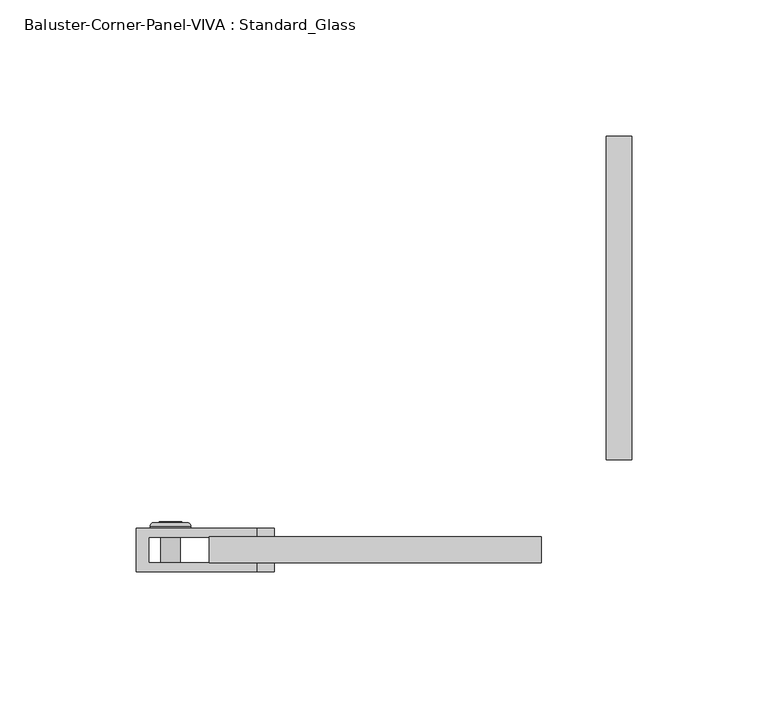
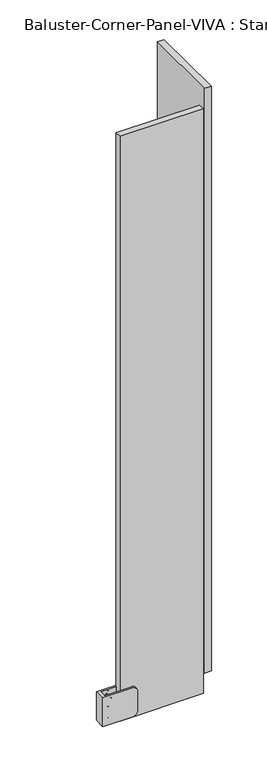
"""IFC4 building model written with IfcOpenShell, lengths in millimetres: railing geometry, Baluster-Corner-Panel-VIVA : Standard_Glass."""

from ifc_helpers import new_model, si_unit, point, frame, origin, place, context, project, spatial, polyline, circle_curve, ellipse_curve, trimmed, outline, extrude, source, transform, mapped, element, save
from ifc_brep_helpers import plane_surface, cylinder_surface, revolved_surface, advanced_brep


def baluster_corner_panel_viva_standard_glass_b3a1ee21(model_context):
    return source(origin(), model_context, "Body", "SolidModel", [
        advanced_brep(
        [(-136.3419148, -36.7665, 138.7358896), (-136.3419148, -24.0665, 138.7358896), (-129.251023, -24.0665, 138.7358896), (-129.251023, -36.7665, 138.7358896), (-140.204258, -24.0665, 138.7358896), (-125.3886798, -24.0665, 138.7358896), (-134.4525443, -23.199388, 138.7358896), (-134.4525443, -36.7665, 138.7358896), (-131.1403935, -36.7665, 138.7358896), (-131.1403935, -23.199388, 138.7358896), (-140.204258, -23.2316551, 138.7358896), (-138.922986, -21.9503831, 138.7358896), (-126.6699518, -21.9503831, 138.7358896), (-125.3886798, -23.2316551, 138.7358896), (-137.0950644, -21.9503831, 138.7358896), (-128.4978734, -21.9503831, 138.7358896), (-137.0950644, -23.199388, 138.7358896), (-128.4978734, -23.199388, 138.7358896)],
        [
            (0, 1),
            (1, 2, circle_curve(frame((-132.7964689, -24.0665, 138.7358896), z_axis=(0.0, -1.0, 0.0), x_axis=(1.0, 0.0, 0.0)), 3.5454459)),
            (2, 3),
            (3, 0, circle_curve(frame((-132.7964689, -36.7665, 138.7358896), z_axis=(0.0, 1.0, 0.0), x_axis=(1.0, 0.0, 0.0)), 3.5454459)),
            (2, 1, circle_curve(frame((-132.7964689, -24.0665, 138.7358896), z_axis=(0.0, -1.0, 0.0), x_axis=(1.0, 0.0, 0.0)), 3.5454459)),
            (0, 3, circle_curve(frame((-132.7964689, -36.7665, 138.7358896), z_axis=(0.0, 1.0, 0.0), x_axis=(1.0, 0.0, 0.0)), 3.5454459)),
            (1, 4),
            (4, 5, circle_curve(frame((-132.7964689, -24.0665, 138.7358896), z_axis=(0.0, -1.0, 0.0), x_axis=(1.0, 0.0, 0.0)), 7.4077891)),
            (5, 2),
            (5, 4, circle_curve(frame((-132.7964689, -24.0665, 138.7358896), z_axis=(0.0, -1.0, 0.0), x_axis=(1.0, 0.0, 0.0)), 7.4077891)),
            (6, 7),
            (7, 8, circle_curve(frame((-132.7964689, -36.7665, 138.7358896), z_axis=(0.0, -1.0, 0.0), x_axis=(1.0, 0.0, 0.0)), 1.6560754)),
            (8, 9),
            (9, 6, circle_curve(frame((-132.7964689, -23.199388, 138.7358896), z_axis=(0.0, 1.0, 0.0), x_axis=(1.0, 0.0, 0.0)), 1.6560754)),
            (8, 7, circle_curve(frame((-132.7964689, -36.7665, 138.7358896), z_axis=(0.0, -1.0, 0.0), x_axis=(1.0, 0.0, 0.0)), 1.6560754)),
            (6, 9, circle_curve(frame((-132.7964689, -23.199388, 138.7358896), z_axis=(0.0, 1.0, 0.0), x_axis=(1.0, 0.0, 0.0)), 1.6560754)),
            (10, 11, circle_curve(frame((-138.922986, -23.2316551, 138.7358896), z_axis=(0.0, 0.0, -1.0), x_axis=(-1.0, 0.0, 0.0)), 1.281272)),
            (11, 12, circle_curve(frame((-132.7964689, -21.9503831, 138.7358896), z_axis=(0.0, -1.0, 0.0), x_axis=(1.0, 0.0, 0.0)), 6.1265171)),
            (12, 13, circle_curve(frame((-126.6699518, -23.2316551, 138.7358896), z_axis=(0.0, 0.0, -1.0), x_axis=(1.0, 0.0, 0.0)), 1.281272)),
            (13, 10, circle_curve(frame((-132.7964689, -23.2316551, 138.7358896), z_axis=(0.0, 1.0, 0.0), x_axis=(1.0, 0.0, 0.0)), 7.4077891)),
            (12, 11, circle_curve(frame((-132.7964689, -21.9503831, 138.7358896), z_axis=(0.0, -1.0, 0.0), x_axis=(1.0, 0.0, 0.0)), 6.1265171)),
            (10, 13, circle_curve(frame((-132.7964689, -23.2316551, 138.7358896), z_axis=(0.0, 1.0, 0.0), x_axis=(1.0, 0.0, 0.0)), 7.4077891)),
            (11, 14),
            (14, 15, circle_curve(frame((-132.7964689, -21.9503831, 138.7358896), z_axis=(0.0, -1.0, 0.0), x_axis=(1.0, 0.0, 0.0)), 4.2985955)),
            (15, 12),
            (15, 14, circle_curve(frame((-132.7964689, -21.9503831, 138.7358896), z_axis=(0.0, -1.0, 0.0), x_axis=(1.0, 0.0, 0.0)), 4.2985955)),
            (4, 10),
            (13, 5),
            (7, 0),
            (3, 8),
            (14, 16),
            (16, 17, circle_curve(frame((-132.7964689, -23.199388, 138.7358896), z_axis=(0.0, -1.0, 0.0), x_axis=(1.0, 0.0, 0.0)), 4.2985955)),
            (17, 15),
            (17, 16, circle_curve(frame((-132.7964689, -23.199388, 138.7358896), z_axis=(0.0, -1.0, 0.0), x_axis=(1.0, 0.0, 0.0)), 4.2985955)),
            (16, 6),
            (9, 17),
        ],
        [
            cylinder_surface(frame((-132.7964689, -27.5632331, 138.7358896), z_axis=(0.0, -1.0, 0.0), x_axis=(1.0, 0.0, 0.0)), 3.5454459),
            plane_surface(frame((-132.7964689, -24.0665, 138.7358896), z_axis=(0.0, -1.0, 0.0), x_axis=(1.0, 0.0, 0.0))),
            revolved_surface(polyline([(-131.14039350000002, -36.7665, 138.7358896), (-131.14039350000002, -23.199388, 138.7358896)]), (-132.7964689, -27.5632331, 138.7358896), (0.0, -1.0, 0.0)),
            revolved_surface(trimmed(ellipse_curve(frame((-126.6699518, -23.2316551, 138.7358896), z_axis=(0.0, 0.0, -1.0), x_axis=(1.0, 0.0, 0.0)), 1.281272, 1.281272), [point((-126.6699518, -21.9503831, 138.7358896))], [point((-125.3886798, -23.2316551, 138.7358896))], True, "CARTESIAN"), (-132.7964689, -27.5632331, 138.7358896), (0.0, -1.0, 0.0)),
            plane_surface(frame((-132.7964689, -21.9503831, 138.7358896), z_axis=(0.0, 1.0, 0.0), x_axis=(1.0, 0.0, 0.0))),
            cylinder_surface(frame((-132.7964689, -27.5632331, 138.7358896), z_axis=(0.0, -1.0, 0.0), x_axis=(1.0, 0.0, 0.0)), 7.4077891),
            plane_surface(frame((-132.7964689, -36.7665, 138.7358896), z_axis=(0.0, -1.0, 0.0), x_axis=(1.0, 0.0, 0.0))),
            revolved_surface(polyline([(-128.4978734, -23.199388, 138.7358896), (-128.4978734, -21.9503831, 138.7358896)]), (-132.7964689, -27.5632331, 138.7358896), (0.0, -1.0, 0.0)),
            plane_surface(frame((-132.7964689, -23.199388, 138.7358896), z_axis=(0.0, 1.0, 0.0), x_axis=(1.0, 0.0, 0.0))),
        ],
        [
            (0, [[1, 2, 3, 4]]),
            (0, [[-3, 5, -1, 6]]),
            (1, [[7, 8, 9, -2]]),
            (1, [[-9, 10, -7, -5]]),
            (2, [[11, 12, 13, 14]]),
            (2, [[-13, 15, -11, 16]]),
            (3, [[17, 18, 19, 20]]),
            (3, [[-19, 21, -17, 22]]),
            (4, [[23, 24, 25, -18]]),
            (4, [[-25, 26, -23, -21]]),
            (5, [[27, -20, 28, -8]]),
            (5, [[-28, -22, -27, -10]]),
            (6, [[29, -4, 30, -12]]),
            (6, [[-30, -6, -29, -15]]),
            (7, [[31, 32, 33, -24]]),
            (7, [[-33, 34, -31, -26]]),
            (8, [[35, -14, 36, -32]]),
            (8, [[-36, -16, -35, -34]]),
        ],
    ),
        advanced_brep(
        [(-136.3419148, -36.7665, 114.1296396), (-136.3419148, -24.0665, 114.1296396), (-129.251023, -24.0665, 114.1296396), (-129.251023, -36.7665, 114.1296396), (-140.204258, -24.0665, 114.1296396), (-125.3886798, -24.0665, 114.1296396), (-134.4525443, -23.199388, 114.1296396), (-134.4525443, -36.7665, 114.1296396), (-131.1403935, -36.7665, 114.1296396), (-131.1403935, -23.199388, 114.1296396), (-140.204258, -23.2316551, 114.1296396), (-138.922986, -21.9503831, 114.1296396), (-126.6699518, -21.9503831, 114.1296396), (-125.3886798, -23.2316551, 114.1296396), (-137.0950644, -21.9503831, 114.1296396), (-128.4978734, -21.9503831, 114.1296396), (-137.0950644, -23.199388, 114.1296396), (-128.4978734, -23.199388, 114.1296396)],
        [
            (0, 1),
            (1, 2, circle_curve(frame((-132.7964689, -24.0665, 114.1296396), z_axis=(0.0, -1.0, 0.0), x_axis=(1.0, 0.0, 0.0)), 3.5454459)),
            (2, 3),
            (3, 0, circle_curve(frame((-132.7964689, -36.7665, 114.1296396), z_axis=(0.0, 1.0, 0.0), x_axis=(1.0, 0.0, 0.0)), 3.5454459)),
            (2, 1, circle_curve(frame((-132.7964689, -24.0665, 114.1296396), z_axis=(0.0, -1.0, 0.0), x_axis=(1.0, 0.0, 0.0)), 3.5454459)),
            (0, 3, circle_curve(frame((-132.7964689, -36.7665, 114.1296396), z_axis=(0.0, 1.0, 0.0), x_axis=(1.0, 0.0, 0.0)), 3.5454459)),
            (1, 4),
            (4, 5, circle_curve(frame((-132.7964689, -24.0665, 114.1296396), z_axis=(0.0, -1.0, 0.0), x_axis=(1.0, 0.0, 0.0)), 7.4077891)),
            (5, 2),
            (5, 4, circle_curve(frame((-132.7964689, -24.0665, 114.1296396), z_axis=(0.0, -1.0, 0.0), x_axis=(1.0, 0.0, 0.0)), 7.4077891)),
            (6, 7),
            (7, 8, circle_curve(frame((-132.7964689, -36.7665, 114.1296396), z_axis=(0.0, -1.0, 0.0), x_axis=(1.0, 0.0, 0.0)), 1.6560754)),
            (8, 9),
            (9, 6, circle_curve(frame((-132.7964689, -23.199388, 114.1296396), z_axis=(0.0, 1.0, 0.0), x_axis=(1.0, 0.0, 0.0)), 1.6560754)),
            (8, 7, circle_curve(frame((-132.7964689, -36.7665, 114.1296396), z_axis=(0.0, -1.0, 0.0), x_axis=(1.0, 0.0, 0.0)), 1.6560754)),
            (6, 9, circle_curve(frame((-132.7964689, -23.199388, 114.1296396), z_axis=(0.0, 1.0, 0.0), x_axis=(1.0, 0.0, 0.0)), 1.6560754)),
            (10, 11, circle_curve(frame((-138.922986, -23.2316551, 114.1296396), z_axis=(0.0, 0.0, -1.0), x_axis=(-1.0, 0.0, 0.0)), 1.281272)),
            (11, 12, circle_curve(frame((-132.7964689, -21.9503831, 114.1296396), z_axis=(0.0, -1.0, 0.0), x_axis=(1.0, 0.0, 0.0)), 6.1265171)),
            (12, 13, circle_curve(frame((-126.6699518, -23.2316551, 114.1296396), z_axis=(0.0, 0.0, -1.0), x_axis=(1.0, 0.0, 0.0)), 1.281272)),
            (13, 10, circle_curve(frame((-132.7964689, -23.2316551, 114.1296396), z_axis=(0.0, 1.0, 0.0), x_axis=(1.0, 0.0, 0.0)), 7.4077891)),
            (12, 11, circle_curve(frame((-132.7964689, -21.9503831, 114.1296396), z_axis=(0.0, -1.0, 0.0), x_axis=(1.0, 0.0, 0.0)), 6.1265171)),
            (10, 13, circle_curve(frame((-132.7964689, -23.2316551, 114.1296396), z_axis=(0.0, 1.0, 0.0), x_axis=(1.0, 0.0, 0.0)), 7.4077891)),
            (11, 14),
            (14, 15, circle_curve(frame((-132.7964689, -21.9503831, 114.1296396), z_axis=(0.0, -1.0, 0.0), x_axis=(1.0, 0.0, 0.0)), 4.2985955)),
            (15, 12),
            (15, 14, circle_curve(frame((-132.7964689, -21.9503831, 114.1296396), z_axis=(0.0, -1.0, 0.0), x_axis=(1.0, 0.0, 0.0)), 4.2985955)),
            (7, 0),
            (3, 8),
            (4, 10),
            (13, 5),
            (14, 16),
            (16, 17, circle_curve(frame((-132.7964689, -23.199388, 114.1296396), z_axis=(0.0, -1.0, 0.0), x_axis=(1.0, 0.0, 0.0)), 4.2985955)),
            (17, 15),
            (17, 16, circle_curve(frame((-132.7964689, -23.199388, 114.1296396), z_axis=(0.0, -1.0, 0.0), x_axis=(1.0, 0.0, 0.0)), 4.2985955)),
            (16, 6),
            (9, 17),
        ],
        [
            cylinder_surface(frame((-132.7964689, -27.5632331, 114.1296396), z_axis=(0.0, -1.0, 0.0), x_axis=(1.0, 0.0, 0.0)), 3.5454459),
            plane_surface(frame((-132.7964689, -24.0665, 114.1296396), z_axis=(0.0, -1.0, 0.0), x_axis=(1.0, 0.0, 0.0))),
            revolved_surface(polyline([(-131.14039350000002, -36.7665, 114.1296396), (-131.14039350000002, -23.199388, 114.1296396)]), (-132.7964689, -27.5632331, 114.1296396), (0.0, -1.0, 0.0)),
            revolved_surface(trimmed(ellipse_curve(frame((-126.6699518, -23.2316551, 114.1296396), z_axis=(0.0, 0.0, -1.0), x_axis=(1.0, 0.0, 0.0)), 1.281272, 1.281272), [point((-126.6699518, -21.9503831, 114.1296396))], [point((-125.3886798, -23.2316551, 114.1296396))], True, "CARTESIAN"), (-132.7964689, -27.5632331, 114.1296396), (0.0, -1.0, 0.0)),
            plane_surface(frame((-132.7964689, -21.9503831, 114.1296396), z_axis=(0.0, 1.0, 0.0), x_axis=(1.0, 0.0, 0.0))),
            plane_surface(frame((-132.7964689, -36.7665, 114.1296396), z_axis=(0.0, -1.0, 0.0), x_axis=(1.0, 0.0, 0.0))),
            cylinder_surface(frame((-132.7964689, -27.5632331, 114.1296396), z_axis=(0.0, -1.0, 0.0), x_axis=(1.0, 0.0, 0.0)), 7.4077891),
            revolved_surface(polyline([(-128.4978734, -23.199388, 114.1296396), (-128.4978734, -21.9503831, 114.1296396)]), (-132.7964689, -27.5632331, 114.1296396), (0.0, -1.0, 0.0)),
            plane_surface(frame((-132.7964689, -23.199388, 114.1296396), z_axis=(0.0, 1.0, 0.0), x_axis=(1.0, 0.0, 0.0))),
        ],
        [
            (0, [[1, 2, 3, 4]]),
            (0, [[-3, 5, -1, 6]]),
            (1, [[7, 8, 9, -2]]),
            (1, [[-9, 10, -7, -5]]),
            (2, [[11, 12, 13, 14]]),
            (2, [[-13, 15, -11, 16]]),
            (3, [[17, 18, 19, 20]]),
            (3, [[-19, 21, -17, 22]]),
            (4, [[23, 24, 25, -18]]),
            (4, [[-25, 26, -23, -21]]),
            (5, [[27, -4, 28, -12]]),
            (5, [[-28, -6, -27, -15]]),
            (6, [[29, -20, 30, -8]]),
            (6, [[-30, -22, -29, -10]]),
            (7, [[31, 32, 33, -24]]),
            (7, [[-33, 34, -31, -26]]),
            (8, [[35, -14, 36, -32]]),
            (8, [[-36, -16, -35, -34]]),
        ],
    ),
        extrude(outline(polyline([(114.1296396, -136.8903972), (110.5841937, -134.843433), (110.5841937, -130.7495048), (114.1296396, -128.7025406), (117.6750855, -130.7495048), (117.6750855, -134.843433), (114.1296396, -136.8903972)])), frame((0.0, -23.199388, 0.0), z_axis=(0.0, 1.0, 0.0), x_axis=(0.0, 0.0, 1.0)), (0.0, 0.0, 1.0), 1.4969696),
        advanced_brep(
        [(-145.4298137, -24.0665, 148.6577646), (-100.9798137, -24.0665, 148.6577646), (-94.6298137, -24.0665, 142.3077646), (-94.6298137, -24.0665, 110.5577646), (-100.9798137, -24.0665, 104.2077646), (-145.4298137, -24.0665, 104.2077646), (-145.4298137, -39.9415, 148.6577646), (-145.4298137, -39.9415, 104.2077646), (-100.9798137, -39.9415, 104.2077646), (-94.6298137, -39.9415, 110.5577646), (-94.6298137, -39.9415, 142.3077646), (-100.9798137, -39.9415, 148.6577646), (-100.9798137, -27.2415, 104.2077646), (-140.7117333, -27.2415, 104.2077646), (-140.7117333, -36.7665, 104.2077646), (-100.9798137, -36.7665, 104.2077646), (-140.7117333, -27.2415, 148.6577646), (-140.7117333, -36.7665, 148.6577646), (-94.6298137, -27.2415, 110.5577646), (-94.6298137, -27.2415, 142.3077646), (-100.9798137, -27.2415, 148.6577646), (-100.9798137, -36.7665, 148.6577646), (-94.6298137, -36.7665, 142.3077646), (-94.6298137, -36.7665, 110.5577646)],
        [
            (0, 1),
            (1, 2, circle_curve(frame((-100.9798137, -24.0665, 142.3077646), z_axis=(0.0, 1.0, 0.0), x_axis=(1.0, 0.0, 0.0)), 6.35)),
            (2, 3),
            (3, 4, circle_curve(frame((-100.9798137, -24.0665, 110.5577646), z_axis=(0.0, 1.0, 0.0), x_axis=(1.0, 0.0, 0.0)), 6.35)),
            (4, 5),
            (5, 0),
            (6, 7),
            (7, 8),
            (8, 9, circle_curve(frame((-100.9798137, -39.9415, 110.5577646), z_axis=(0.0, -1.0, 0.0), x_axis=(1.0, 0.0, 0.0)), 6.35)),
            (9, 10),
            (10, 11, circle_curve(frame((-100.9798137, -39.9415, 142.3077646), z_axis=(0.0, -1.0, 0.0), x_axis=(1.0, 0.0, 0.0)), 6.35)),
            (11, 6),
            (5, 7),
            (6, 0),
            (4, 12),
            (12, 13),
            (13, 14),
            (14, 15),
            (15, 8),
            (13, 16),
            (16, 17),
            (17, 14),
            (12, 18, circle_curve(frame((-100.9798137, -27.2415, 110.5577646), z_axis=(0.0, -1.0, 0.0), x_axis=(1.0, 0.0, 0.0)), 6.35)),
            (18, 19),
            (19, 20, circle_curve(frame((-100.9798137, -27.2415, 142.3077646), z_axis=(0.0, -1.0, 0.0), x_axis=(1.0, 0.0, 0.0)), 6.35)),
            (20, 16),
            (17, 21),
            (21, 22, circle_curve(frame((-100.9798137, -36.7665, 142.3077646), z_axis=(0.0, 1.0, 0.0), x_axis=(1.0, 0.0, 0.0)), 6.35)),
            (22, 23),
            (23, 15, circle_curve(frame((-100.9798137, -36.7665, 110.5577646), z_axis=(0.0, 1.0, 0.0), x_axis=(1.0, 0.0, 0.0)), 6.35)),
            (23, 9),
            (3, 18),
            (22, 10),
            (2, 19),
            (21, 11),
            (1, 20),
        ],
        [
            plane_surface(frame((-145.4298137, -24.0665, 104.2077646), z_axis=(0.0, 1.0, 0.0), x_axis=(0.0, 0.0, -1.0))),
            plane_surface(frame((-145.4298137, -39.9415, 104.2077646), z_axis=(0.0, -1.0, 0.0), x_axis=(0.0, 0.0, 1.0))),
            plane_surface(frame((-145.4298137, -24.0665, 148.6577646), z_axis=(-1.0, 0.0, 0.0), x_axis=(0.0, -1.0, 0.0))),
            plane_surface(frame((-145.4298137, -24.0665, 104.2077646), z_axis=(0.0, 0.0, -1.0), x_axis=(0.0, -1.0, 0.0))),
            plane_surface(frame((-140.7117333, -36.7665, 161.3577646), z_axis=(1.0, 0.0, 0.0), x_axis=(0.0, 0.0, -1.0))),
            plane_surface(frame((-140.7117333, -27.2415, 161.3577646), z_axis=(0.0, -1.0, 0.0), x_axis=(0.0, 0.0, -1.0))),
            plane_surface(frame((-81.9298137, -36.7665, 161.3577646), z_axis=(0.0, 1.0, 0.0), x_axis=(0.0, 0.0, -1.0))),
            cylinder_surface(frame((-100.9798137, -39.9415, 110.5577646), z_axis=(0.0, 1.0, 0.0), x_axis=(1.0, 0.0, 0.0)), 6.35),
            plane_surface(frame((-94.6298137, -24.0665, 110.5577646), z_axis=(1.0, 0.0, 0.0), x_axis=(0.0, -1.0, 0.0))),
            cylinder_surface(frame((-100.9798137, -39.9415, 142.3077646), z_axis=(0.0, 1.0, 0.0), x_axis=(1.0, 0.0, 0.0)), 6.35),
            plane_surface(frame((-100.9798137, -24.0665, 148.6577646), z_axis=(0.0, 0.0, 1.0), x_axis=(0.0, -1.0, 0.0))),
        ],
        [
            (0, [[1, 2, 3, 4, 5, 6]]),
            (1, [[7, 8, 9, 10, 11, 12]]),
            (2, [[13, -7, 14, -6]]),
            (3, [[15, 16, 17, 18, 19, -8, -13, -5]]),
            (4, [[-17, 20, 21, 22]]),
            (5, [[-16, 23, 24, 25, 26, -20]]),
            (6, [[27, 28, 29, 30, -18, -22]]),
            (7, [[-19, -30, 31, -9]]),
            (7, [[32, -23, -15, -4]]),
            (8, [[-31, -29, 33, -10]]),
            (8, [[34, -24, -32, -3]]),
            (9, [[-33, -28, 35, -11]]),
            (9, [[36, -25, -34, -2]]),
            (10, [[-14, -12, -35, -27, -21, -26, -36, -1]]),
        ],
    ),
        extrude(outline(polyline([(36.7665, 1.0851207), (27.2415, 1.0851207), (27.2415, 119.9437936), (36.7665, 119.9437936), (36.7665, 1.0851207)])), frame((0.0, 0.0, 101.6), z_axis=(0.0, 0.0, 1.0), x_axis=(1.0, 0.0, 0.0)), (0.0, 0.0, 1.0), 901.7),
        extrude(outline(polyline([(-118.4867333, -36.7665), (-118.4867333, -27.2415), (3.429, -27.2415), (3.429, -36.7665), (-118.4867333, -36.7665)])), frame((0.0, 0.0, 101.6), z_axis=(0.0, 0.0, 1.0), x_axis=(1.0, 0.0, 0.0)), (0.0, 0.0, 1.0), 901.7),
    ])


if __name__ == "__main__":
    model = new_model("IFC4")
    model_context = context("Model", 3, world=origin())
    ifc_project = project(units=[si_unit("LENGTHUNIT", "METRE", prefix="MILLI")], contexts=[model_context])
    site = spatial("IfcSite", under=ifc_project)
    building = spatial("IfcBuilding", under=site)
    placement = place(None, origin())
    baluster_corner_panel_viva_standard_glass_shape = baluster_corner_panel_viva_standard_glass_b3a1ee21(model_context)
    element("IfcRailing", 1, ObjectType="Baluster-Corner-Panel-VIVA : Standard_Glass", at=placement, inside=building, context=model_context, shape_type="MappedRepresentation", body=[
        mapped(baluster_corner_panel_viva_standard_glass_shape, transform((0.0, 0.0, 0.0), x_axis=(1.0, 0.0, 0.0), y_axis=(0.0, 1.0, 0.0), z_axis=(0.0, 0.0, 1.0))),
    ])
    save(model, "model.ifc")
